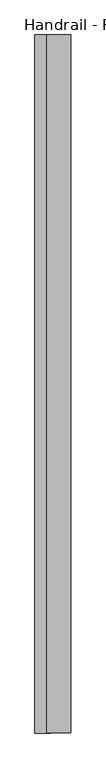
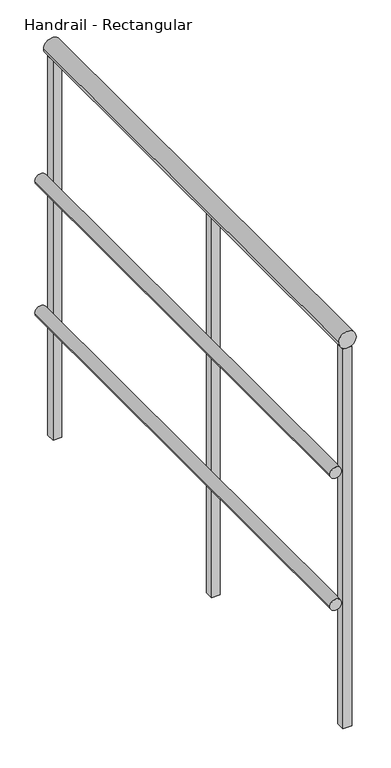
"""IFC4 building model written with IfcOpenShell, lengths in millimetres: railing geometry, Handrail - Rectangular."""

from ifc_helpers import new_model, si_unit, point, frame, frame_2d, origin, place, context, project, spatial, polyline, circle_curve, trimmed, segment, composite_curve, outline, extrude, source, transform, mapped, element, save


def handrail_rectangular_1468f00f(model_context):
    return source(origin(), model_context, "Body", "SweptSolid", [
        extrude(outline(composite_curve([segment(trimmed(circle_curve(frame_2d((3644.9, -18476.8839563)), 12.7), [point((3644.9, -18489.5839563))], [point((3644.9, -18464.1839563))], False, "CARTESIAN"), True, "CONTINUOUS"), segment(trimmed(circle_curve(frame_2d((3644.9, -18476.8839563)), 12.7), [point((3644.9, -18464.1839563))], [point((3644.9, -18489.5839563))], False, "CARTESIAN"), True, "CONTINUOUS")], self_intersect=False)), frame((0.0, 10624.0316867, 0.0), z_axis=(0.0, 1.0, 0.0), x_axis=(0.0, 0.0, 1.0)), (0.0, 0.0, 1.0), 1117.6),
        extrude(outline(composite_curve([segment(trimmed(circle_curve(frame_2d((3340.1, -18476.8839563)), 12.7), [point((3340.1, -18489.5839563))], [point((3340.1, -18464.1839563))], False, "CARTESIAN"), True, "CONTINUOUS"), segment(trimmed(circle_curve(frame_2d((3340.1, -18476.8839563)), 12.7), [point((3340.1, -18464.1839563))], [point((3340.1, -18489.5839563))], False, "CARTESIAN"), True, "CONTINUOUS")], self_intersect=False)), frame((0.0, 10624.0316867, 0.0), z_axis=(0.0, 1.0, 0.0), x_axis=(0.0, 0.0, 1.0)), (0.0, 0.0, 1.0), 1117.6),
        extrude(outline(composite_curve([segment(trimmed(circle_curve(frame_2d((3943.35, -18451.4839563)), 19.05), [point((3943.35, -18470.5339563))], [point((3943.35, -18432.4339563))], False, "CARTESIAN"), True, "CONTINUOUS"), segment(trimmed(circle_curve(frame_2d((3943.35, -18451.4839563)), 19.05), [point((3943.35, -18432.4339563))], [point((3943.35, -18470.5339563))], False, "CARTESIAN"), True, "CONTINUOUS")], self_intersect=False)), frame((0.0, 10624.0316867, 0.0), z_axis=(0.0, 1.0, 0.0), x_axis=(0.0, 0.0, 1.0)), (0.0, 0.0, 1.0), 1117.6),
        extrude(outline(polyline([(-18441.9589563, 11141.5566867), (-18441.9589563, 11122.5066867), (-18461.0089563, 11122.5066867), (-18461.0089563, 11141.5566867), (-18441.9589563, 11141.5566867)])), frame((0.0, 0.0, 3048.0), z_axis=(0.0, 0.0, 1.0), x_axis=(1.0, 0.0, 0.0)), (0.0, 0.0, 1.0), 876.3),
        extrude(outline(polyline([(-18441.9589563, 10643.0816867), (-18441.9589563, 10624.0316867), (-18461.0089563, 10624.0316867), (-18461.0089563, 10643.0816867), (-18441.9589563, 10643.0816867)])), frame((0.0, 0.0, 3048.0), z_axis=(0.0, 0.0, 1.0), x_axis=(1.0, 0.0, 0.0)), (0.0, 0.0, 1.0), 876.3),
        extrude(outline(polyline([(-18441.9589563, 11741.6316867), (-18441.9589563, 11722.5816867), (-18461.0089563, 11722.5816867), (-18461.0089563, 11741.6316867), (-18441.9589563, 11741.6316867)])), frame((0.0, 0.0, 3048.0), z_axis=(0.0, 0.0, 1.0), x_axis=(1.0, 0.0, 0.0)), (0.0, 0.0, 1.0), 876.3),
    ])


if __name__ == "__main__":
    model = new_model("IFC4")
    model_context = context("Model", 3, world=origin())
    ifc_project = project(units=[si_unit("LENGTHUNIT", "METRE", prefix="MILLI")], contexts=[model_context])
    site = spatial("IfcSite", under=ifc_project)
    building = spatial("IfcBuilding", under=site)
    placement = place(None, origin())
    handrail_rectangular_shape = handrail_rectangular_1468f00f(model_context)
    element("IfcRailing", 1, ObjectType="Handrail - Rectangular", at=placement, inside=building, context=model_context, shape_type="MappedRepresentation", body=[
        mapped(handrail_rectangular_shape, transform((0.0, 0.0, 0.0), x_axis=(1.0, 0.0, 0.0), y_axis=(0.0, 1.0, 0.0), z_axis=(0.0, 0.0, 1.0))),
    ])
    save(model, "model.ifc")
